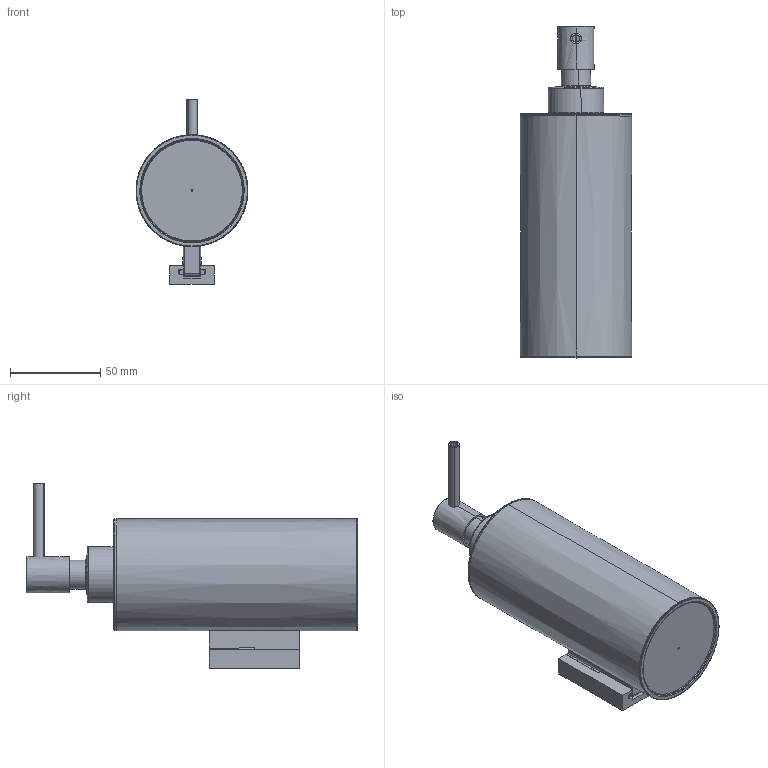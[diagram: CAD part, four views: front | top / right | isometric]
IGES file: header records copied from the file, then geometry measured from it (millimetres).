
Start section: SolidWorks IGES file using analytic representation for surfaces
Global section: file name: G:\Projects\New project\For Marketing\IGS\IGS\2050103VW.IGS; native system: SolidWorks 2010; preprocessor: SolidWorks 2010; author: linda; date: 151008.153609; units: millimetre
Bounding box: 62 x 183.9 x 102.5 mm (x, y, z)
Surface area: 48051 mm2 (no closed solid volume)
Topology: 0 solids, 0 shells, 115 faces, 1867 edges, 1862 vertices
Faces by surface type: bspline 60, revolution 55
